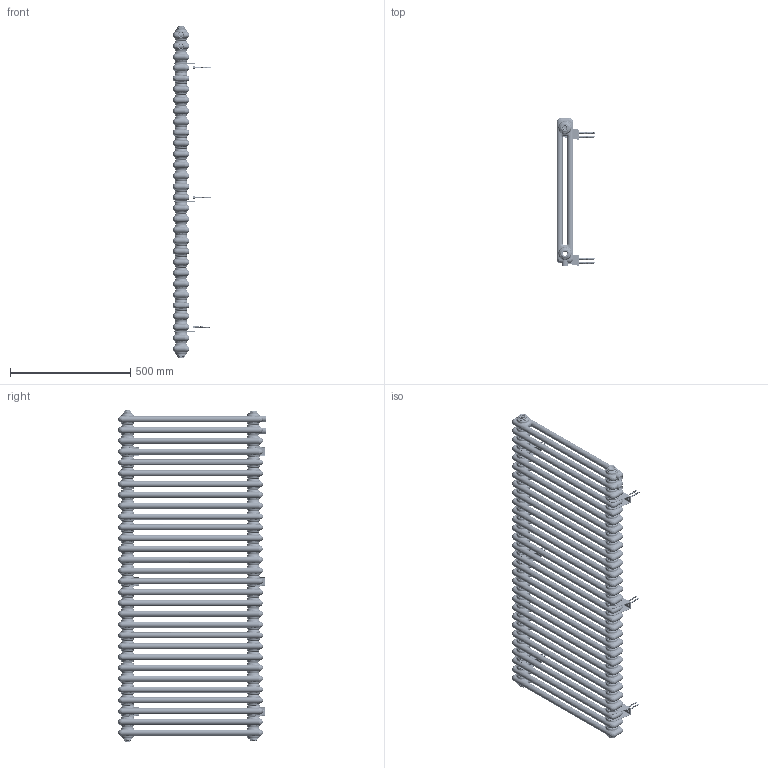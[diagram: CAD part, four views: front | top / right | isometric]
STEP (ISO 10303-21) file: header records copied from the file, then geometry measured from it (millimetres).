
FILE_DESCRIPTION(/* description */ (''),/* implementation_level */ '2;1');
FILE_NAME(/* name */ 'CL02 600x1370 D50',/* time_stamp */ '2023-09-09T12:58:23+08:00',/* author */ (''),/* organization */ (''),/* preprocessor_version */ 'ST-DEVELOPER v9',/* originating_system */ 'UGS - NX 4.0',/* authorisation */ '');
FILE_SCHEMA (('CONFIG_CONTROL_DESIGN'));
Length unit declared in the file: millimetre
Products named in the file (1): AdmiF21Fozcv
Bounding box: 161.6 x 616 x 1382 mm (x, y, z)
Volume: 4301490.9 mm3; surface area: 5693050.4 mm2
Topology: 57 solids, 57 shells, 8609 faces, 20687 edges, 12149 vertices
Faces by surface type: bspline 2667, plane 1784, torus 1708, cylinder 1699, cone 751
Full cylindrical faces by diameter (mm): 19 x2, 25 x2
Entity records: 546278 total; most frequent: CARTESIAN_POINT 364308, ORIENTED_EDGE 41322, DIRECTION 34441, EDGE_CURVE 20661, AXIS2_PLACEMENT_3D 14817, VERTEX_POINT 12151, EDGE_LOOP 8932, CIRCLE 8874
